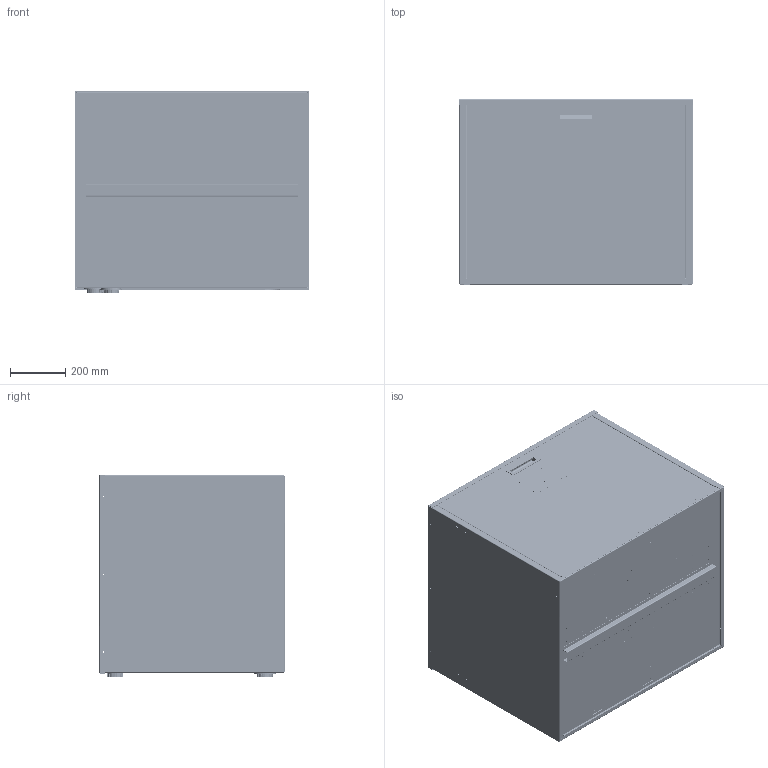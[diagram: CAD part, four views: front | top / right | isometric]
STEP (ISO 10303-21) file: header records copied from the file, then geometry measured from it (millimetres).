
FILE_DESCRIPTION (( 'STEP AP214' ), '1' );
FILE_NAME ('GW0701S1.STEP', '2016-07-14T14:44:55', ( 'BMC' ), ( 'Bard Manufacturing Co., Inc.' ), 'SwSTEP 2.0', 'SolidWorks 2016', '' );
FILE_SCHEMA (( 'AUTOMOTIVE_DESIGN' ));
Length unit declared in the file: inch
Products named in the file (45): 106-313; 8607-029; plastic trim; 116-338; 6094-012; 1-480701-0, 3 pin female plug; 1171-060; Circuit breaker mockup; 152-546; 7950-xxx; 126-438; 8401-036; 152-545; 8550-007; 5252-008; 114-223; 8401-002; Cap; 5800-818-0306; 8401-034; 6051-008; 140-387; 8201-085, correct; 6051-002; 112-469; 116-339; New water fitting Large; small threaded fitting; 8611-006; 6 side threaded fitting; 8407-048; 1012-226; GW0701S1; 8552-096; CAGE NUT BODY; 7961-685; GWW control panel; 8607-030; 132-234; 116-337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
Assembly tree (65 placements, depth 3):
  GW0701S1
    small threaded fitting  x2
    112-469  x2
    140-387
    5800-818-0306  x2
    114-223
    152-545
    126-438
    152-546
    1171-060  x2
    6094-012  x2
    plastic trim  x2
    106-313
    100-717  x2
    114-122
    GWW control panel
      116-337
      8607-030
      7961-685
      8552-096
      8407-048
      8611-006  x2
      116-339
      8201-085, correct
      8401-034
      8401-002
      8550-007
      8401-036
      7950-xxx  x3
      Circuit breaker mockup  x2
      1-480701-0, 3 pin female plug
      116-338
      8607-029
      8201-130
      8201-114
      8201-120
      132-234
    1012-226
      CAGE NUT BODY
    6 side threaded fitting  x2
    New water fitting Large  x2
    6051-002  x4
    6051-008  x4
    Cap  x2
    5252-008  x2
Bounding box: 847.42 x 668.61 x 732.73 mm (x, y, z)
Surface area: 8828946.5 mm2 (no closed solid volume)
Topology: 0 solids, 85 shells, 11496 faces, 30133 edges, 19665 vertices
Faces by surface type: plane 6643, bspline 2298, cylinder 2219, cone 336
Entity records: 556638 total; most frequent: CARTESIAN_POINT 179568, ORIENTED_EDGE 53870, DIRECTION 42638, EDGE_CURVE 26938, VECTOR 18832, LINE 18832, VERTEX_POINT 17653, AXIS2_PLACEMENT_3D 11903
